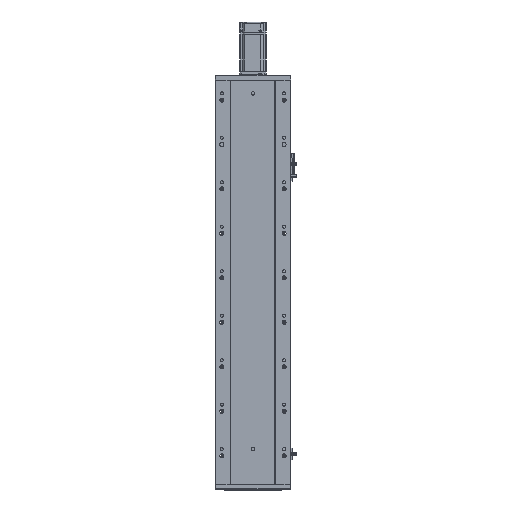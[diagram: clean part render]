
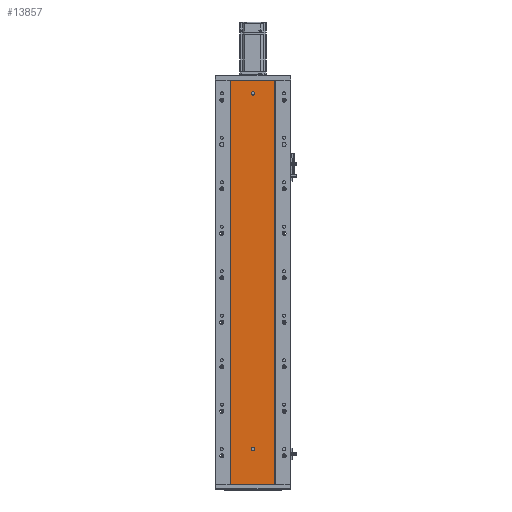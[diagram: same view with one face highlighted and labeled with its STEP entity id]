
A CAD part, front view. The second image highlights one B-rep face of the part: STEP entity #13857.
In plain terms, the highlighted planar face has unit normal (0, -1, 0).
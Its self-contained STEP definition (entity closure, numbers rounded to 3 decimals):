
#1078 = VERTEX_POINT ( 'NONE', #69279 ) ;
#1794 = EDGE_CURVE ( 'NONE', #45155, #45141, #62635, .T. ) ;
#1838 = EDGE_CURVE ( 'NONE', #1078, #45202, #62633, .T. ) ;
#7425 = DIRECTION ( 'NONE',  ( 1., 0., 0. ) ) ;
#7433 = CARTESIAN_POINT ( 'NONE',  ( 0., 79.476, 910. ) ) ;
#7441 = CARTESIAN_POINT ( 'NONE',  ( 86.97, 79.476, 606.667 ) ) ;
#7442 = CARTESIAN_POINT ( 'NONE',  ( 0., 79.476, 0. ) ) ;
#7445 = DIRECTION ( 'NONE',  ( 1., 0., 0. ) ) ;
#7448 = CARTESIAN_POINT ( 'NONE',  ( 86.97, 79.476, 303.333 ) ) ;
#7449 = CARTESIAN_POINT ( 'NONE',  ( 86.97, 79.476, 0. ) ) ;
#7455 = CARTESIAN_POINT ( 'NONE',  ( 86.97, 79.476, 910. ) ) ;
#7467 = DIRECTION ( 'NONE',  ( 0., -1., 0. ) ) ;
#7468 = DIRECTION ( 'NONE',  ( 0., 0., -1. ) ) ;
#7483 = CARTESIAN_POINT ( 'NONE',  ( 136.47, 79.476, 80. ) ) ;
#7512 = CARTESIAN_POINT ( 'NONE',  ( 185.97, 79.476, 0. ) ) ;
#7527 = CARTESIAN_POINT ( 'NONE',  ( 185.97, 79.476, 910. ) ) ;
#7531 = CARTESIAN_POINT ( 'NONE',  ( 185.97, 79.476, 606.667 ) ) ;
#7533 = CARTESIAN_POINT ( 'NONE',  ( 185.97, 79.476, 303.333 ) ) ;
#7548 = DIRECTION ( 'NONE',  ( 0., 0., -1. ) ) ;
#7558 = CARTESIAN_POINT ( 'NONE',  ( 136.47, 79.476, 880. ) ) ;
#7561 = DIRECTION ( 'NONE',  ( 0., -1., 0. ) ) ;
#9191 = EDGE_CURVE ( 'NONE', #44338, #44314, #27837, .T. ) ;
#9196 = EDGE_CURVE ( 'NONE', #44295, #44338, #30862, .T. ) ;
#9201 = EDGE_CURVE ( 'NONE', #44295, #44336, #27863, .T. ) ;
#9212 = EDGE_CURVE ( 'NONE', #45141, #45155, #27890, .T. ) ;
#9233 = EDGE_CURVE ( 'NONE', #44336, #44314, #30853, .T. ) ;
#9256 = EDGE_CURVE ( 'NONE', #45202, #1078, #27959, .T. ) ;
#11929 = CARTESIAN_POINT ( 'NONE',  ( 0., 79.476, 910. ) ) ;
#11941 = DIRECTION ( 'NONE',  ( 0., 1., 0. ) ) ;
#11948 = PLANE ( 'NONE',  #57758 ) ;
#11951 = DIRECTION ( 'NONE',  ( 0., 0., 1. ) ) ;
#13857 = ADVANCED_FACE ( 'NONE', ( #25333, #25392, #25388 ), #11948, .F. ) ;
#25333 = FACE_BOUND ( 'NONE', #65104, .T. ) ;
#25388 = FACE_OUTER_BOUND ( 'NONE', #65135, .T. ) ;
#25392 = FACE_BOUND ( 'NONE', #65095, .T. ) ;
#27836 = VECTOR ( 'NONE', #7425, 1000. ) ;
#27837 = LINE ( 'NONE', #7442, #27836 ) ;
#27845 = VECTOR ( 'NONE', #7445, 1000. ) ;
#27863 = LINE ( 'NONE', #7433, #27845 ) ;
#27890 = CIRCLE ( 'NONE', #57454, 4. ) ;
#27959 = CIRCLE ( 'NONE', #57465, 4. ) ;
#30853 = B_SPLINE_CURVE_WITH_KNOTS ( 'NONE', 3,
 ( #7527, #7531, #7533, #7512 ),
 .UNSPECIFIED., .F., .F.,
 ( 4, 4 ),
 ( 0., 1. ),
 .UNSPECIFIED. ) ;
#30862 = B_SPLINE_CURVE_WITH_KNOTS ( 'NONE', 3,
 ( #7455, #7441, #7448, #7449 ),
 .UNSPECIFIED., .F., .F.,
 ( 4, 4 ),
 ( 0., 1. ),
 .UNSPECIFIED. ) ;
#34395 = DIRECTION ( 'NONE',  ( 0., -1., 0. ) ) ;
#34408 = CARTESIAN_POINT ( 'NONE',  ( 136.47, 79.476, 80. ) ) ;
#34414 = DIRECTION ( 'NONE',  ( 0., 0., -1. ) ) ;
#34425 = DIRECTION ( 'NONE',  ( 0., -1., 0. ) ) ;
#34431 = DIRECTION ( 'NONE',  ( 0., 0., -1. ) ) ;
#34460 = CARTESIAN_POINT ( 'NONE',  ( 136.47, 79.476, 880. ) ) ;
#40994 = CARTESIAN_POINT ( 'NONE',  ( 185.97, 79.476, 0. ) ) ;
#41052 = CARTESIAN_POINT ( 'NONE',  ( 86.97, 79.476, 910. ) ) ;
#41097 = CARTESIAN_POINT ( 'NONE',  ( 185.97, 79.476, 910. ) ) ;
#41122 = CARTESIAN_POINT ( 'NONE',  ( 86.97, 79.476, 0. ) ) ;
#43173 = CARTESIAN_POINT ( 'NONE',  ( 136.47, 79.476, 84. ) ) ;
#43200 = CARTESIAN_POINT ( 'NONE',  ( 136.47, 79.476, 76. ) ) ;
#43358 = CARTESIAN_POINT ( 'NONE',  ( 136.47, 79.476, 876. ) ) ;
#44295 = VERTEX_POINT ( 'NONE', #41052 ) ;
#44314 = VERTEX_POINT ( 'NONE', #40994 ) ;
#44336 = VERTEX_POINT ( 'NONE', #41097 ) ;
#44338 = VERTEX_POINT ( 'NONE', #41122 ) ;
#45141 = VERTEX_POINT ( 'NONE', #43200 ) ;
#45155 = VERTEX_POINT ( 'NONE', #43173 ) ;
#45202 = VERTEX_POINT ( 'NONE', #43358 ) ;
#54920 = AXIS2_PLACEMENT_3D ( 'NONE', #34460, #34425, #34431 ) ;
#54939 = AXIS2_PLACEMENT_3D ( 'NONE', #34408, #34395, #34414 ) ;
#57454 = AXIS2_PLACEMENT_3D ( 'NONE', #7483, #7467, #7468 ) ;
#57465 = AXIS2_PLACEMENT_3D ( 'NONE', #7558, #7561, #7548 ) ;
#57758 = AXIS2_PLACEMENT_3D ( 'NONE', #11929, #11941, #11951 ) ;
#58407 = ORIENTED_EDGE ( 'NONE', *, *, #9256, .F. ) ;
#58415 = ORIENTED_EDGE ( 'NONE', *, *, #9196, .T. ) ;
#58425 = ORIENTED_EDGE ( 'NONE', *, *, #9233, .F. ) ;
#58426 = ORIENTED_EDGE ( 'NONE', *, *, #1794, .F. ) ;
#58455 = ORIENTED_EDGE ( 'NONE', *, *, #1838, .F. ) ;
#58464 = ORIENTED_EDGE ( 'NONE', *, *, #9191, .T. ) ;
#58507 = ORIENTED_EDGE ( 'NONE', *, *, #9201, .F. ) ;
#58508 = ORIENTED_EDGE ( 'NONE', *, *, #9212, .F. ) ;
#62633 = CIRCLE ( 'NONE', #54920, 4. ) ;
#62635 = CIRCLE ( 'NONE', #54939, 4. ) ;
#65095 = EDGE_LOOP ( 'NONE', ( #58508, #58426 ) ) ;
#65104 = EDGE_LOOP ( 'NONE', ( #58407, #58455 ) ) ;
#65135 = EDGE_LOOP ( 'NONE', ( #58464, #58425, #58507, #58415 ) ) ;
#69279 = CARTESIAN_POINT ( 'NONE',  ( 136.47, 79.476, 884. ) ) ;
